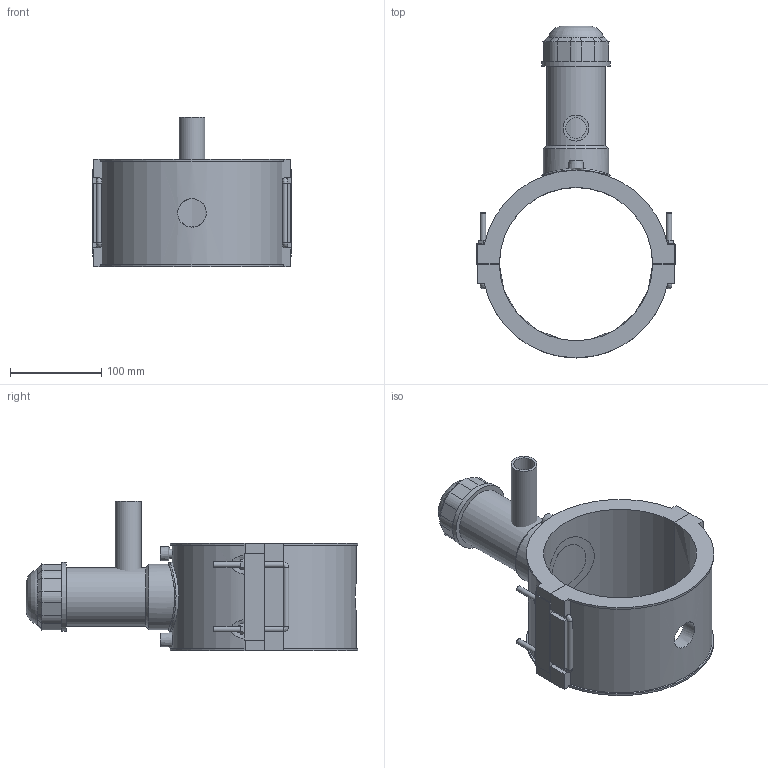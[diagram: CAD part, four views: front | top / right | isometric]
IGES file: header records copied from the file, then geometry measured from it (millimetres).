
Global section: file name: 5963BUP3060010.ipt; native system: Autodesk Inventor 2019; preprocessor: unknown; author: KIM; date: 20210830.101627; units: inch
Bounding box: 217.9 x 363.85 x 163.96 mm (x, y, z)
Volume: 1604004.2 mm3; surface area: 275106.6 mm2
Topology: 3 solids, 4 shells, 185 faces, 464 edges, 293 vertices
Faces by surface type: plane 115, cylinder 33, cone 15, revolution 13, bspline 9
Full cylindrical faces by diameter (mm): 4 x2, 6 x10, 28.45 x1, 64.26 x1, 71.82 x1, 75.6 x2
